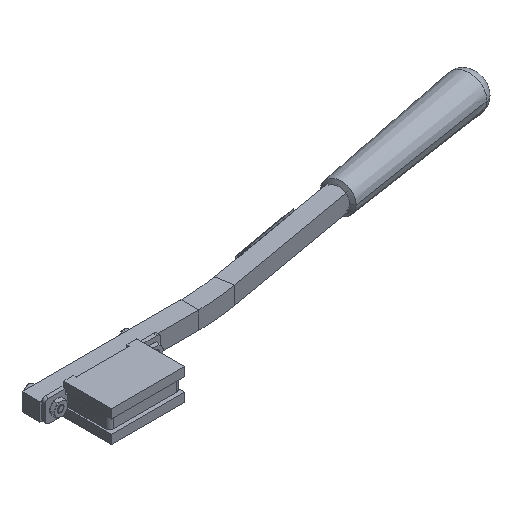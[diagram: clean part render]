
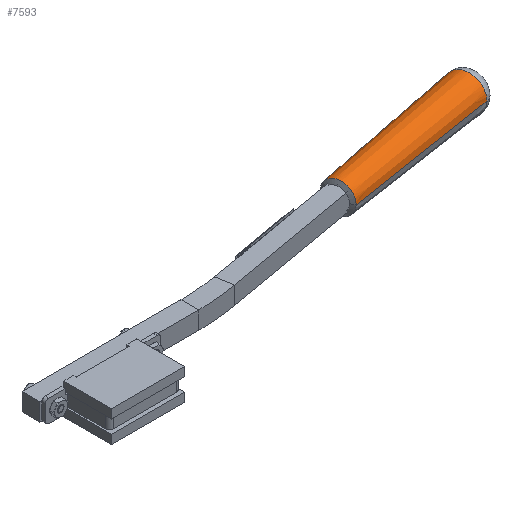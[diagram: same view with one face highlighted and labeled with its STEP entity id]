
A CAD part, isometric view. The second image highlights one B-rep face of the part: STEP entity #7593.
In plain terms, the highlighted conical face has half-angle 1.087 degrees and reference radius 11.113 mm.
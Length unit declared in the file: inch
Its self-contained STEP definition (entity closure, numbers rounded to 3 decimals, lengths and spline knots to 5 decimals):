
#1125 = DIRECTION ( 'NONE',  ( 0.981, 0.192, 0. ) ) ;
#5605 = CONICAL_SURFACE ( 'NONE', #17912, 0.4375, 0.019 ) ;
#5990 = CARTESIAN_POINT ( 'NONE',  ( 8.79961, 1.29775, 0. ) ) ;
#6255 = CARTESIAN_POINT ( 'NONE',  ( 4.36215, 0.95956, 0. ) ) ;
#6837 = ORIENTED_EDGE ( 'NONE', *, *, #12707, .T. ) ;
#7593 = ADVANCED_FACE ( 'NONE', ( #22927 ), #5605, .T. ) ;
#7755 = CARTESIAN_POINT ( 'NONE',  ( 4.43812, 0.5287, 0. ) ) ;
#8324 = EDGE_CURVE ( 'NONE', #17328, #28959, #11981, .T. ) ;
#8498 = CARTESIAN_POINT ( 'NONE',  ( 8.89017, 0.78416, 0. ) ) ;
#9269 = ORIENTED_EDGE ( 'NONE', *, *, #17039, .F. ) ;
#10232 = DIRECTION ( 'NONE',  ( -0.174, 0.985, 0. ) ) ;
#11916 = DIRECTION ( 'NONE',  ( -0.985, -0.174, 0. ) ) ;
#11981 = LINE ( 'NONE', #29073, #28928 ) ;
#12707 = EDGE_CURVE ( 'NONE', #28959, #26191, #25007, .T. ) ;
#13281 = CARTESIAN_POINT ( 'NONE',  ( 4.43812, 0.5287, 0. ) ) ;
#13781 = ORIENTED_EDGE ( 'NONE', *, *, #8324, .T. ) ;
#15114 = CARTESIAN_POINT ( 'NONE',  ( 4.36215, 0.95956, 0. ) ) ;
#17033 = AXIS2_PLACEMENT_3D ( 'NONE', #5990, #11916, #28861 ) ;
#17039 = EDGE_CURVE ( 'NONE', #29176, #26191, #21432, .T. ) ;
#17328 = VERTEX_POINT ( 'NONE', #18099 ) ;
#17912 = AXIS2_PLACEMENT_3D ( 'NONE', #7755, #30519, #10232 ) ;
#18099 = CARTESIAN_POINT ( 'NONE',  ( 4.51409, 0.09785, 0. ) ) ;
#19454 = AXIS2_PLACEMENT_3D ( 'NONE', #13281, #27624, #30101 ) ;
#21432 = LINE ( 'NONE', #15114, #34783 ) ;
#22927 = FACE_OUTER_BOUND ( 'NONE', #29974, .T. ) ;
#24237 = CIRCLE ( 'NONE', #19454, 0.4375 ) ;
#25007 = CIRCLE ( 'NONE', #17033, 0.52151 ) ;
#26191 = VERTEX_POINT ( 'NONE', #35383 ) ;
#26476 = DIRECTION ( 'NONE',  ( 0.988, 0.155, 0. ) ) ;
#27624 = DIRECTION ( 'NONE',  ( -0.985, -0.174, 0. ) ) ;
#28861 = DIRECTION ( 'NONE',  ( 0.174, -0.985, 0. ) ) ;
#28928 = VECTOR ( 'NONE', #26476, 39.37008 ) ;
#28959 = VERTEX_POINT ( 'NONE', #8498 ) ;
#29073 = CARTESIAN_POINT ( 'NONE',  ( 4.51409, 0.09785, 0. ) ) ;
#29176 = VERTEX_POINT ( 'NONE', #6255 ) ;
#29530 = EDGE_CURVE ( 'NONE', #17328, #29176, #24237, .T. ) ;
#29974 = EDGE_LOOP ( 'NONE', ( #30700, #13781, #6837, #9269 ) ) ;
#30101 = DIRECTION ( 'NONE',  ( 0.174, -0.985, 0. ) ) ;
#30519 = DIRECTION ( 'NONE',  ( 0.985, 0.174, 0. ) ) ;
#30700 = ORIENTED_EDGE ( 'NONE', *, *, #29530, .F. ) ;
#34783 = VECTOR ( 'NONE', #1125, 39.37008 ) ;
#35383 = CARTESIAN_POINT ( 'NONE',  ( 8.70905, 1.81134, 0. ) ) ;
